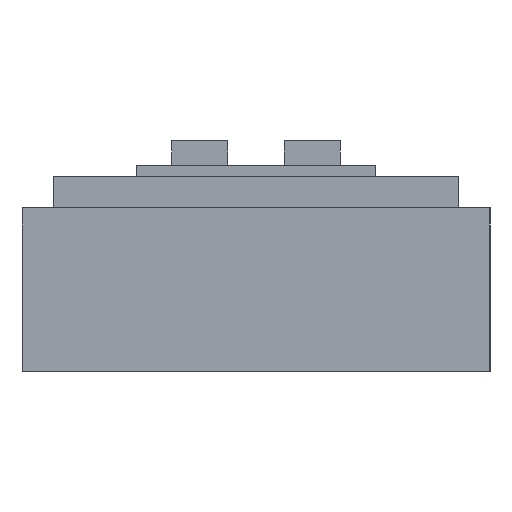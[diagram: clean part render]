
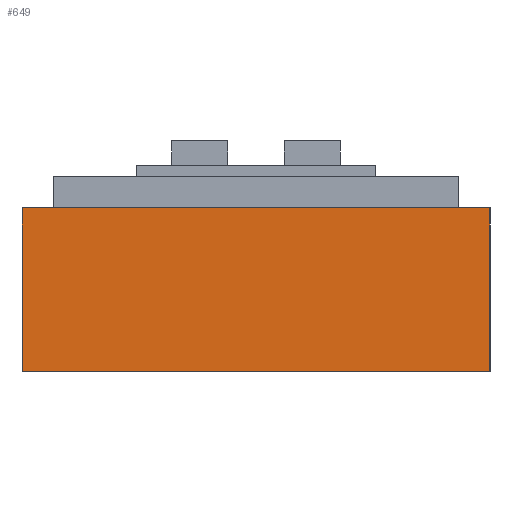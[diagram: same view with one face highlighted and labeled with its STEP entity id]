
A CAD part, left-side view. The second image highlights one B-rep face of the part: STEP entity #649.
In plain terms, the highlighted planar face has unit normal (-1, 0, 0).
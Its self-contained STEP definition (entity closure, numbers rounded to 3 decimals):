
#59=FACE_OUTER_BOUND('',#101,.T.);
#101=EDGE_LOOP('',(#571,#572,#573,#574));
#176=LINE('',#1022,#260);
#182=LINE('',#1034,#266);
#185=LINE('',#1039,#269);
#186=LINE('',#1041,#270);
#260=VECTOR('',#842,10.);
#266=VECTOR('',#850,10.);
#269=VECTOR('',#857,10.);
#270=VECTOR('',#860,10.);
#320=VERTEX_POINT('',#1019);
#321=VERTEX_POINT('',#1021);
#323=VERTEX_POINT('',#1027);
#326=VERTEX_POINT('',#1032);
#400=EDGE_CURVE('',#320,#321,#176,.T.);
#406=EDGE_CURVE('',#326,#323,#182,.T.);
#409=EDGE_CURVE('',#321,#326,#185,.T.);
#410=EDGE_CURVE('',#320,#323,#186,.T.);
#571=ORIENTED_EDGE('',*,*,#410,.T.);
#572=ORIENTED_EDGE('',*,*,#406,.F.);
#573=ORIENTED_EDGE('',*,*,#409,.F.);
#574=ORIENTED_EDGE('',*,*,#400,.F.);
#613=PLANE('',#700);
#649=ADVANCED_FACE('',(#59),#613,.F.);
#700=AXIS2_PLACEMENT_3D('',#1040,#858,#859);
#842=DIRECTION('',(0.,-1.,0.));
#850=DIRECTION('',(0.,1.,0.));
#857=DIRECTION('',(0.,0.,-1.));
#858=DIRECTION('center_axis',(1.,0.,0.));
#859=DIRECTION('ref_axis',(0.,0.,-1.));
#860=DIRECTION('',(0.,0.,-1.));
#1019=CARTESIAN_POINT('',(0.,10.,37.));
#1021=CARTESIAN_POINT('',(0.,-65.,37.));
#1022=CARTESIAN_POINT('',(0.,-27.5,37.));
#1027=CARTESIAN_POINT('',(0.,10.,10.8));
#1032=CARTESIAN_POINT('',(0.,-65.,10.8));
#1034=CARTESIAN_POINT('',(0.,-27.5,10.8));
#1039=CARTESIAN_POINT('',(0.,-65.,23.9));
#1040=CARTESIAN_POINT('Origin',(0.,-27.5,23.9));
#1041=CARTESIAN_POINT('',(0.,10.,23.9));
